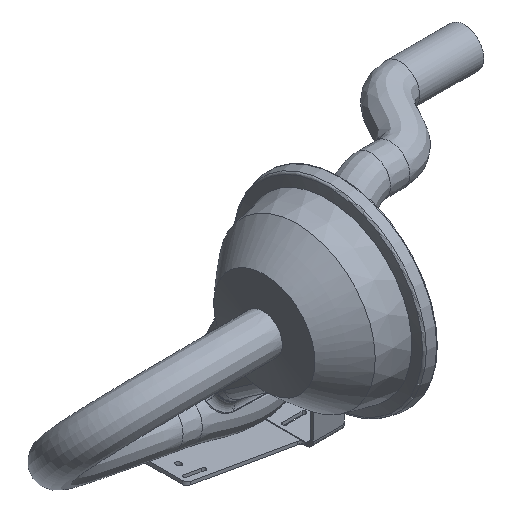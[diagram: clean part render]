
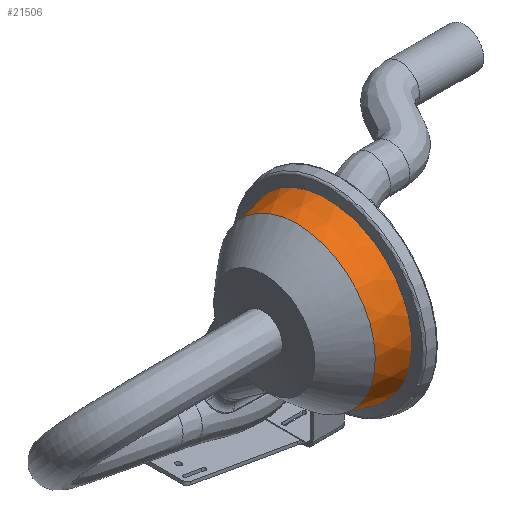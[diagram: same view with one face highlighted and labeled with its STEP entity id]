
A CAD part, isometric view. The second image highlights one B-rep face of the part: STEP entity #21506.
In plain terms, the highlighted conical face has half-angle 12 degrees and reference radius 108.449 mm.
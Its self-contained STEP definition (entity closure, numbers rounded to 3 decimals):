
#449 = CONICAL_SURFACE ( 'NONE', #6078, 108.449, 0.209 ) ;
#805 = CARTESIAN_POINT ( 'NONE',  ( -78.099, 90.501, 2474.955 ) ) ;
#928 = CARTESIAN_POINT ( 'NONE',  ( -91., 31.023, 2429.241 ) ) ;
#1366 = EDGE_CURVE ( 'NONE', #23439, #14544, #11880, .T. ) ;
#4487 = CARTESIAN_POINT ( 'NONE',  ( -54.353, 0., 2525. ) ) ;
#5850 = AXIS2_PLACEMENT_3D ( 'NONE', #16836, #16335, #20657 ) ;
#6078 = AXIS2_PLACEMENT_3D ( 'NONE', #4487, #12178, #19957 ) ;
#7380 = CARTESIAN_POINT ( 'NONE',  ( -91., 31.023, 2429.241 ) ) ;
#10111 = CIRCLE ( 'NONE', #20259, 108.893 ) ;
#10376 = CARTESIAN_POINT ( 'NONE',  ( -52.26, 93.607, 2469.362 ) ) ;
#11162 = CARTESIAN_POINT ( 'NONE',  ( -78.099, 33.569, 2427.183 ) ) ;
#11880 = CIRCLE ( 'NONE', #5850, 100.659 ) ;
#12178 = DIRECTION ( 'NONE',  ( 1., 0., 0. ) ) ;
#12897 = DIRECTION ( 'NONE',  ( 0., 0.985, 0.174 ) ) ;
#13148 = ORIENTED_EDGE ( 'NONE', *, *, #1366, .T. ) ;
#13255 = ORIENTED_EDGE ( 'NONE', *, *, #14638, .T. ) ;
#13597 = EDGE_CURVE ( 'NONE', #19658, #14544, #21534, .T. ) ;
#14094 = FACE_OUTER_BOUND ( 'NONE', #14152, .T. ) ;
#14152 = EDGE_LOOP ( 'NONE', ( #20015, #20641, #13255, #13148 ) ) ;
#14544 = VERTEX_POINT ( 'NONE', #928 ) ;
#14638 = EDGE_CURVE ( 'NONE', #23033, #23439, #21213, .T. ) ;
#14678 = CARTESIAN_POINT ( 'NONE',  ( -52.26, 93.607, 2469.362 ) ) ;
#14833 = CARTESIAN_POINT ( 'NONE',  ( -52.26, 38.538, 2423.154 ) ) ;
#16335 = DIRECTION ( 'NONE',  ( 1., 0., 0. ) ) ;
#16724 = CARTESIAN_POINT ( 'NONE',  ( -52.26, 0., 2525. ) ) ;
#16836 = CARTESIAN_POINT ( 'NONE',  ( -91., 0., 2525. ) ) ;
#16983 = DIRECTION ( 'NONE',  ( 1., 0., 0. ) ) ;
#17680 = CARTESIAN_POINT ( 'NONE',  ( -91., 88.917, 2477.82 ) ) ;
#18141 = CARTESIAN_POINT ( 'NONE',  ( -65.184, 92.062, 2472.141 ) ) ;
#18765 = CARTESIAN_POINT ( 'NONE',  ( -52.26, 38.538, 2423.154 ) ) ;
#19658 = VERTEX_POINT ( 'NONE', #18765 ) ;
#19957 = DIRECTION ( 'NONE',  ( 0., 0.985, 0.174 ) ) ;
#20015 = ORIENTED_EDGE ( 'NONE', *, *, #13597, .F. ) ;
#20259 = AXIS2_PLACEMENT_3D ( 'NONE', #16724, #16983, #12897 ) ;
#20641 = ORIENTED_EDGE ( 'NONE', *, *, #23078, .F. ) ;
#20657 = DIRECTION ( 'NONE',  ( 0., 0.985, 0.174 ) ) ;
#21213 = B_SPLINE_CURVE_WITH_KNOTS ( 'NONE', 3,
 ( #10376, #18141, #805, #23946 ),
 .UNSPECIFIED., .F., .F.,
 ( 4, 4 ),
 ( -0.007, 0.033 ),
 .UNSPECIFIED. ) ;
#21506 = ADVANCED_FACE ( 'NONE', ( #14094 ), #449, .T. ) ;
#21534 = B_SPLINE_CURVE_WITH_KNOTS ( 'NONE', 3,
 ( #14833, #22966, #11162, #7380 ),
 .UNSPECIFIED., .F., .F.,
 ( 4, 4 ),
 ( -0.007, 0.033 ),
 .UNSPECIFIED. ) ;
#22966 = CARTESIAN_POINT ( 'NONE',  ( -65.184, 36.07, 2425.157 ) ) ;
#23033 = VERTEX_POINT ( 'NONE', #14678 ) ;
#23078 = EDGE_CURVE ( 'NONE', #23033, #19658, #10111, .T. ) ;
#23439 = VERTEX_POINT ( 'NONE', #17680 ) ;
#23946 = CARTESIAN_POINT ( 'NONE',  ( -91., 88.917, 2477.82 ) ) ;
